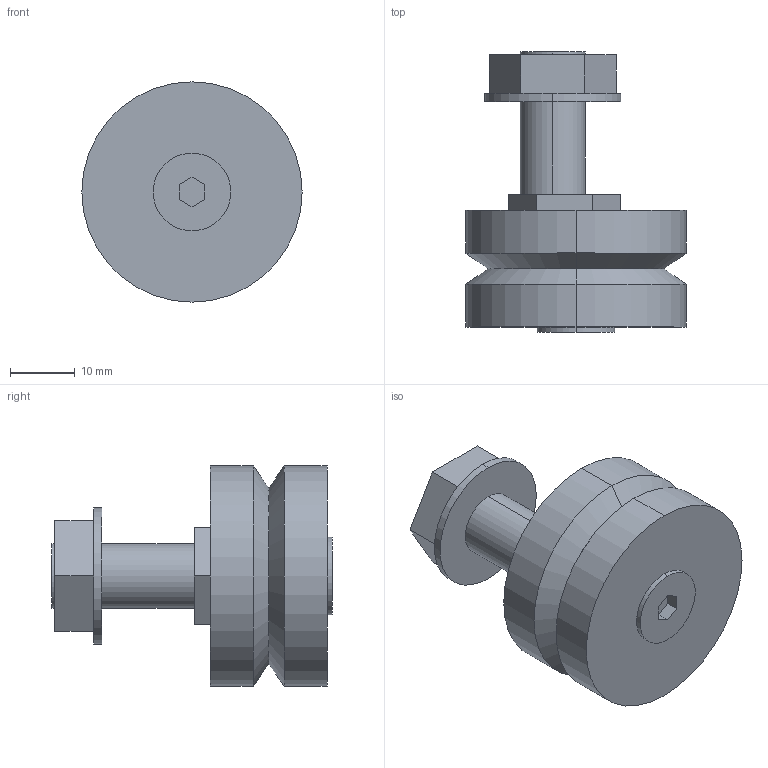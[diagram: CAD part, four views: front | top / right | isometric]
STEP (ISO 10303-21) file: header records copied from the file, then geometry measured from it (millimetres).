
FILE_DESCRIPTION(('STEP AP203'),'1');
FILE_NAME('rlj_34_de.stp','2020-07-11T07:10:08',('TraceParts'),('TraceParts S.A.'),'Spatial InterOp 3D',' ',' ');
FILE_SCHEMA(('CONFIG_CONTROL_DESIGN'));
Length unit declared in the file: millimetre
Products named in the file (1): 1
Bounding box: 34 x 43.3 x 34 mm (x, y, z)
Volume: 19121 mm3; surface area: 5694.2 mm2
Topology: 1 solids, 1 shells, 50 faces, 114 edges, 74 vertices
Faces by surface type: plane 34, cylinder 12, cone 4
Entity records: 1440 total; most frequent: DIRECTION 242, CARTESIAN_POINT 239, ORIENTED_EDGE 228, EDGE_CURVE 114, LINE 88, VECTOR 88, AXIS2_PLACEMENT_3D 77, VERTEX_POINT 74
